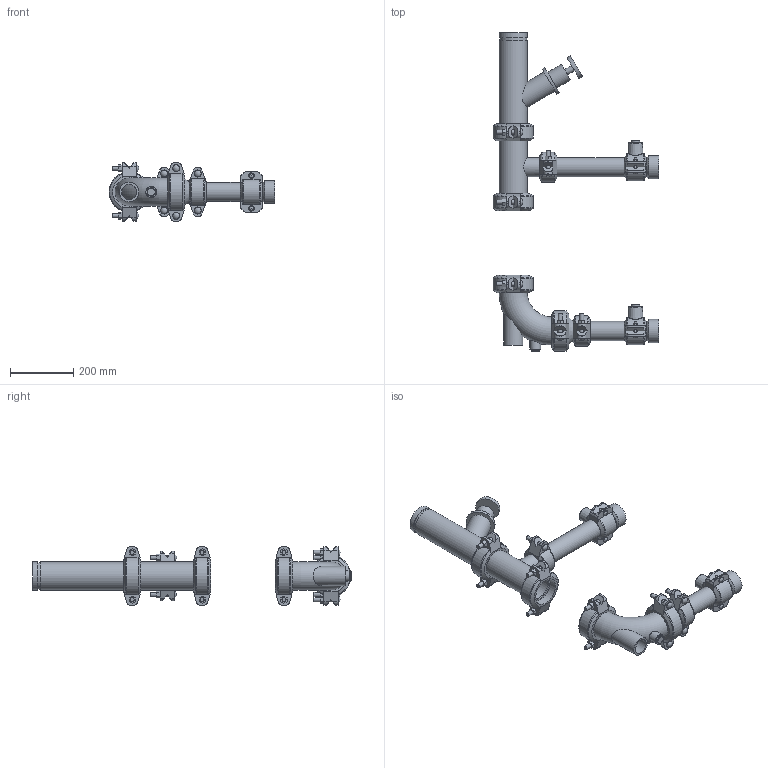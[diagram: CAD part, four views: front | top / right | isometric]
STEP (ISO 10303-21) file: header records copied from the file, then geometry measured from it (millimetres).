
FILE_DESCRIPTION(/* description */ ('VIC RVI DOUBLE COIL AHU DROP LOW PROFILE SERIES 385J (OGSxFPT)','CAx-IF Rec.Pracs.---Representation and Presentation of Product Manufacturing Information (PMI)---4.0---2014-10-13'),/* implementation_level */ '2;1');
FILE_NAME(/* name */ 'C:\Users\kkamble\AppData\Roaming\Autodesk\ApplicationPlugins\Victaulic.Temp\A836\Victaulic_IPS_RVI_Double Coil_Low Profile_Series 385J (OGSxFPT)_03.0x02.0 (80x50).stp',/* time_stamp */ '2021-03-17T12:26:14+06:00',/* author */ ('Vjadhav'),/* organization */ ('Victaulic'),/* preprocessor_version */ 'ST-DEVELOPER v17.2',/* originating_system */ 'Autodesk Inventor 2019',/* authorisation */ '');
FILE_SCHEMA (('AP242_MANAGED_MODEL_BASED_3D_ENGINEERING_MIM_LF { 1 0 10303 442 1 1 4 }'));
Length unit declared in the file: inch
Products named in the file (11): 385J-03.0x02.0; Pipe-02.0; 050-03.0x02.0; 025-03.0x02.0; 177N-03.0; 177N-02.0; Pipe_(10 1/4")-02.0; 072-02.0x0.75; 080-02.0; 100G-03.0; 789-03.0
Assembly tree (16 placements, depth 2):
  385J-03.0x02.0
    080-02.0  x2
    072-02.0x0.75  x2
    Pipe-02.0
    177N-02.0  x2
    050-03.0x02.0
    177N-03.0  x4
    025-03.0x02.0
    Pipe_(10 1/4")-02.0
    100G-03.0
    789-03.0
Bounding box: 524 x 1005.08 x 185.18 mm (x, y, z)
Volume: 5261205 mm3; surface area: 1255354.7 mm2
Topology: 16 solids, 16 shells, 872 faces, 2413 edges, 1610 vertices
Faces by surface type: plane 491, cylinder 275, torus 44, cone 38, bspline 12, sphere 12
Full cylindrical faces by diameter (mm): 7.62 x8, 11.43 x4, 12.7 x12, 17.78 x4, 19.05 x1, 20.93 x3, 22.225 x12, 26.67 x4, 34.29 x1, 47.625 x2, 48.26 x1, 52.502 x6, 57.15 x9, 60.325 x22, 60.96 x1, 69.85 x1, 73.025 x2, 76.2 x5, 77.927 x5, 84.938 x7, 88.9 x18, 92.05 x1
Entity records: 14810 total; most frequent: CARTESIAN_POINT 3276, DIRECTION 2367, ORIENTED_EDGE 2184, EDGE_CURVE 1092, AXIS2_PLACEMENT_3D 930, VERTEX_POINT 744, LINE 507, VECTOR 507
